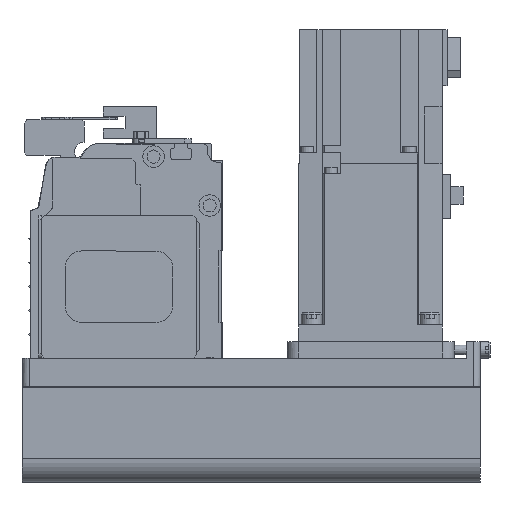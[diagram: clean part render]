
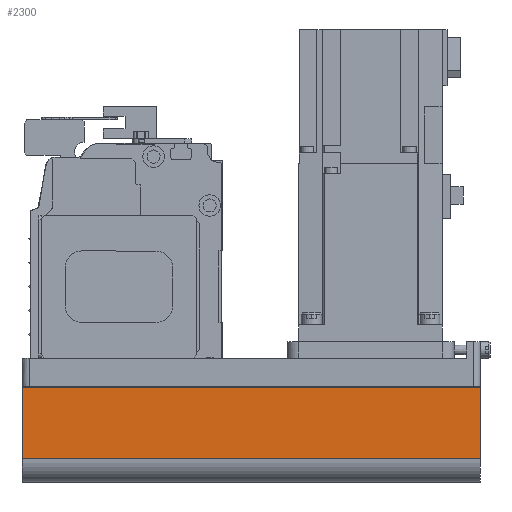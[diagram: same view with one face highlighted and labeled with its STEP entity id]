
A CAD part, left-side view. The second image highlights one B-rep face of the part: STEP entity #2300.
In plain terms, the highlighted planar face has unit normal (-1, 0, 0) as drawn and (0, 1, 0) by its records, which use the part's own axes.
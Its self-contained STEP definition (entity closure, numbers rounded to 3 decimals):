
#2300 = ADVANCED_FACE( '', ( #4786 ), #4787, .T. );
#4786 = FACE_OUTER_BOUND( '', #7298, .T. );
#4787 = PLANE( '', #7299 );
#7298 = EDGE_LOOP( '', ( #13579, #13580, #13581, #13582 ) );
#7299 = AXIS2_PLACEMENT_3D( '', #13583, #13584, #13585 );
#13579 = ORIENTED_EDGE( '', *, *, #15314, .F. );
#13580 = ORIENTED_EDGE( '', *, *, #16005, .F. );
#13581 = ORIENTED_EDGE( '', *, *, #15350, .T. );
#13582 = ORIENTED_EDGE( '', *, *, #15128, .T. );
#13583 = CARTESIAN_POINT( '', ( -192., 40., -42. ) );
#13584 = DIRECTION( '', ( 0., 1., 0. ) );
#13585 = DIRECTION( '', ( 0., 0., 1. ) );
#15128 = EDGE_CURVE( '', #18410, #18411, #18412, .T. );
#15314 = EDGE_CURVE( '', #18696, #18411, #18697, .T. );
#15350 = EDGE_CURVE( '', #18750, #18410, #18751, .T. );
#16005 = EDGE_CURVE( '', #18750, #18696, #19666, .T. );
#18410 = VERTEX_POINT( '', #22742 );
#18411 = VERTEX_POINT( '', #22743 );
#18412 = LINE( '', #22744, #22745 );
#18696 = VERTEX_POINT( '', #23131 );
#18697 = LINE( '', #23132, #23133 );
#18750 = VERTEX_POINT( '', #23204 );
#18751 = LINE( '', #23205, #23206 );
#19666 = LINE( '', #24427, #24428 );
#22742 = CARTESIAN_POINT( '', ( -192., 40., -12.1 ) );
#22743 = CARTESIAN_POINT( '', ( 0., 40., -12.1 ) );
#22744 = CARTESIAN_POINT( '', ( -192., 40., -12.1 ) );
#22745 = VECTOR( '', #26758, 1000. );
#23131 = CARTESIAN_POINT( '', ( 0., 40., -42. ) );
#23132 = CARTESIAN_POINT( '', ( 0., 40., -42. ) );
#23133 = VECTOR( '', #26954, 1000. );
#23204 = CARTESIAN_POINT( '', ( -192., 40., -42. ) );
#23205 = CARTESIAN_POINT( '', ( -192., 40., -42. ) );
#23206 = VECTOR( '', #26997, 1000. );
#24427 = CARTESIAN_POINT( '', ( -192., 40., -42. ) );
#24428 = VECTOR( '', #27775, 1000. );
#26758 = DIRECTION( '', ( 1., 0., 0. ) );
#26954 = DIRECTION( '', ( 0., 0., 1. ) );
#26997 = DIRECTION( '', ( 0., 0., 1. ) );
#27775 = DIRECTION( '', ( 1., 0., 0. ) );
